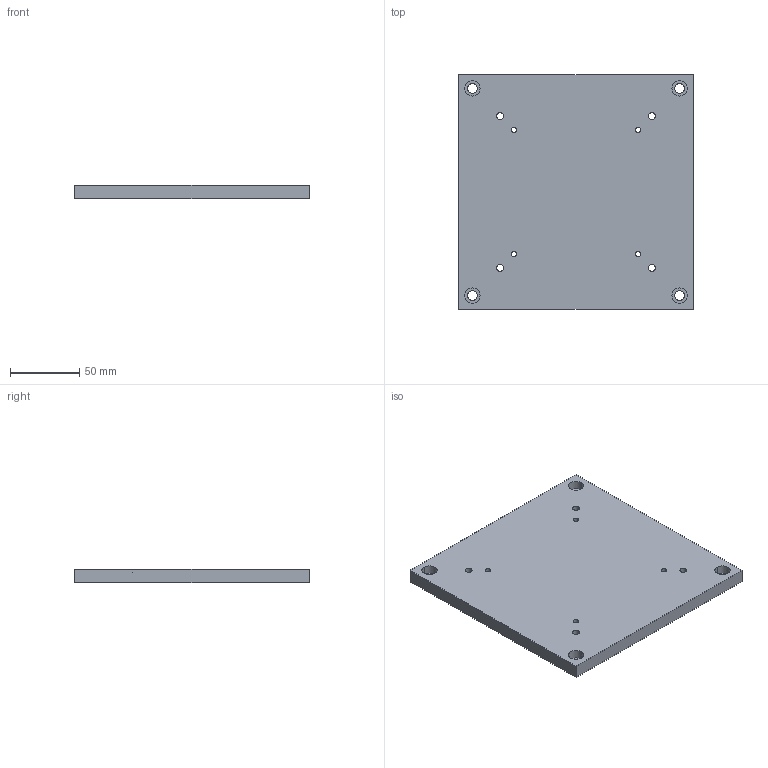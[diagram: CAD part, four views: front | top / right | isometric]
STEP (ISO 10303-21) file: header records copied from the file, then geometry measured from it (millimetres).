
FILE_DESCRIPTION( (''), '2;1');
FILE_NAME ('SPJ-17.stp','2020-07-22T08:44:30',(''),(''),'spGate 15.6.6','','');
FILE_SCHEMA (('AUTOMOTIVE_DESIGN'));
Length unit declared in the file: millimetre
Products named in the file (2): Assembly; SPJ-17-prt0
Assembly tree (1 placements, depth 2):
  Assembly
    SPJ-17-prt0
Bounding box: 170 x 170 x 10 mm (x, y, z)
Volume: 284702.3 mm3; surface area: 66371.9 mm2
Topology: 1 solids, 1 shells, 42 faces, 108 edges, 72 vertices
Faces by surface type: cylinder 32, plane 10
Entity records: 2224 total; most frequent: CARTESIAN_POINT 258, DIRECTION 232, ORIENTED_EDGE 216, COLOUR_RGB 151, PRESENTATION_STYLE_ASSIGNMENT 151, STYLED_ITEM 151, AXIS2_PLACEMENT_3D 110, EDGE_CURVE 108
